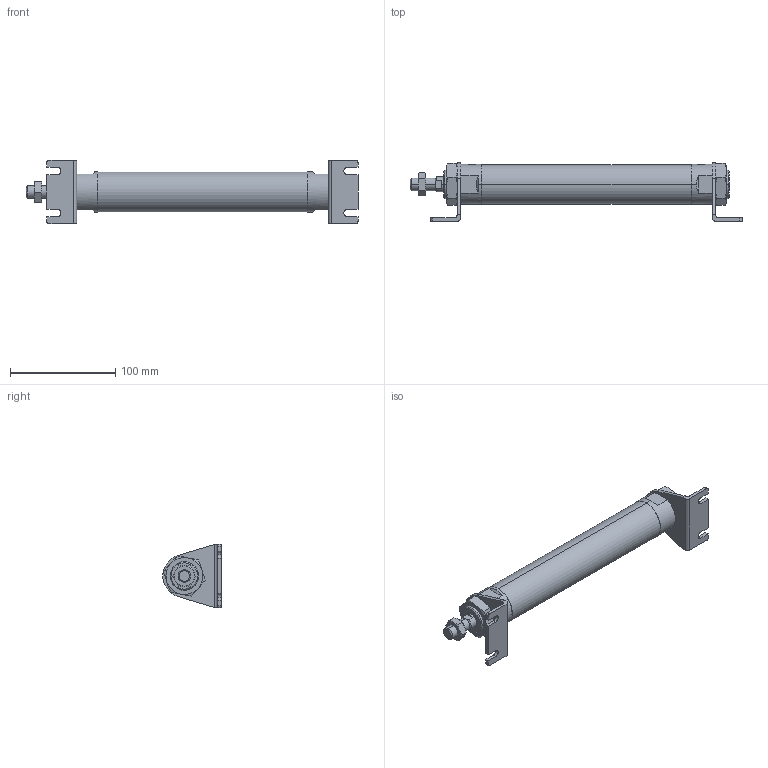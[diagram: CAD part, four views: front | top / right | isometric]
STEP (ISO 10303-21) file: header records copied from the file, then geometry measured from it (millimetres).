
FILE_DESCRIPTION (( 'STEP AP203' ), '1' );
FILE_NAME ('J#2-32-150-L.STEP', '2016-03-10T01:01:01', ( '' ), ( '' ), 'SwSTEP 2.0', 'SolidWorks 2014', '' );
FILE_SCHEMA (( 'CONFIG_CONTROL_DESIGN' ));
Length unit declared in the file: millimetre
Products named in the file (5): J#2-32-150-L; J#2-32-150; J#2-32-L
Assembly tree (6 placements, depth 2):
  J#2-32-150-L
    J#2-32-150
    (unnamed)
    (unnamed)  x2
    J#2-32-L  x2
Bounding box: 315.2 x 55.5 x 60 mm (x, y, z)
Volume: 318033.1 mm3; surface area: 58007.5 mm2
Topology: 6 solids, 6 shells, 170 faces, 404 edges, 249 vertices
Faces by surface type: plane 71, cylinder 48, torus 36, cone 15
Entity records: 4479 total; most frequent: CARTESIAN_POINT 1189, DIRECTION 578, ORIENTED_EDGE 558, EDGE_CURVE 279, AXIS2_PLACEMENT_3D 232, VERTEX_POINT 173, EDGE_LOOP 134, FACE_OUTER_BOUND 121
